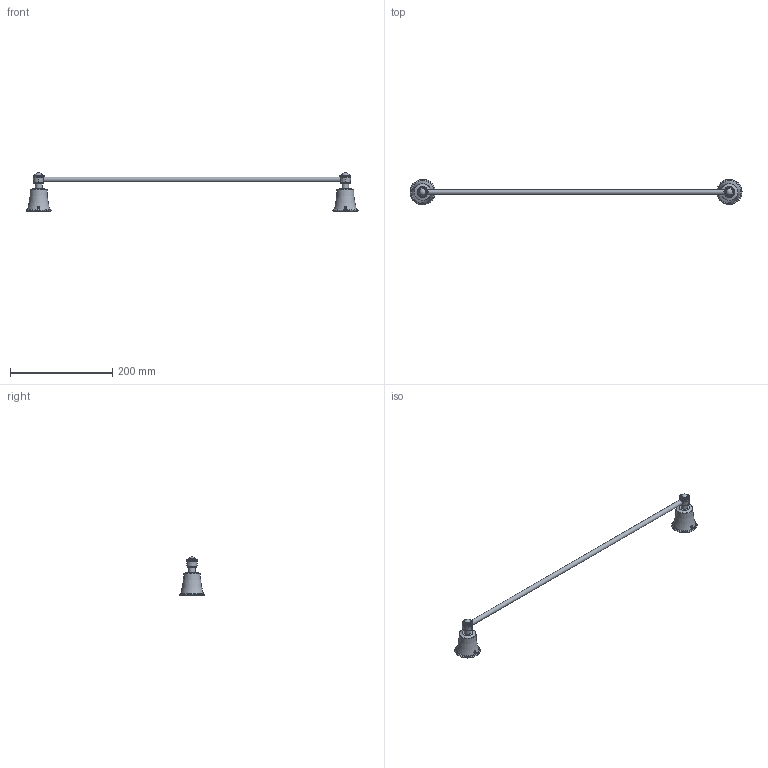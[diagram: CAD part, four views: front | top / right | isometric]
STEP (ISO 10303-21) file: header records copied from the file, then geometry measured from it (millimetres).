
FILE_DESCRIPTION(/* description */ (''),/* implementation_level */ '2;1');
FILE_NAME(/* name */ 'c:\worker\convert-fusion-r05\tmp\job-1\18\output\files\5a93d534-2529-40ae-9f37-fb7a796b05ff\44d7c36d-77f0-4566-a070-eb2d55a27c44.stp',/* time_stamp */ '2019-07-10T07:08:03+00:00',/* author */ (''),/* organization */ (''),/* preprocessor_version */ 'ST-DEVELOPER v18',/* originating_system */ 'Autodesk Translation Framework v8.2.0.1029',/* authorisation */ '');
FILE_SCHEMA (('AUTOMOTIVE_DESIGN { 1 0 10303 214 3 1 1 }'));
Length unit declared in the file: millimetre
Products named in the file (1): !AL53216
Bounding box: 649.55 x 49.54 x 75 mm (x, y, z)
Volume: 150547.7 mm3; surface area: 43676.7 mm2
Topology: 7 solids, 7 shells, 97 faces, 266 edges, 193 vertices
Faces by surface type: plane 36, torus 30, cylinder 11, cone 10, bspline 8, sphere 2
Full cylindrical faces by diameter (mm): 5 x2, 5.2 x2, 9.5 x1, 9.6 x2, 13 x2, 13.2 x2
Entity records: 3566 total; most frequent: CARTESIAN_POINT 879, DIRECTION 631, ORIENTED_EDGE 532, AXIS2_PLACEMENT_3D 287, EDGE_CURVE 266, CIRCLE 197, VERTEX_POINT 193, EDGE_LOOP 107
